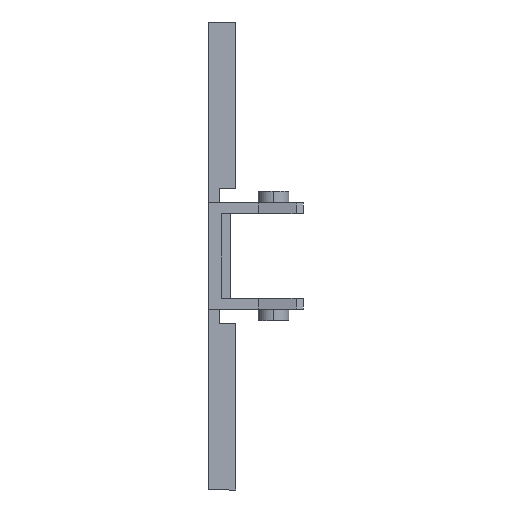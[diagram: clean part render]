
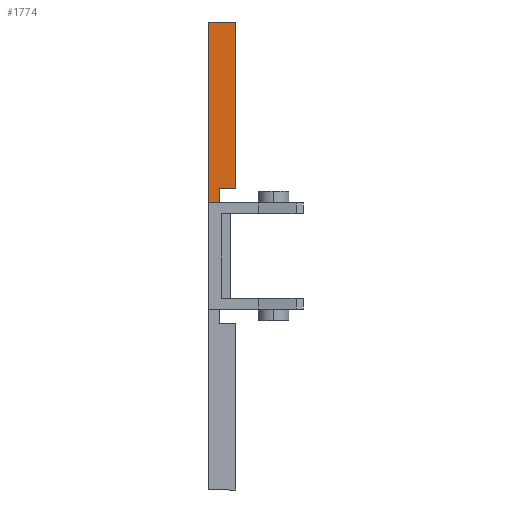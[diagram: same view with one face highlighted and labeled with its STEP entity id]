
A CAD part, front view. The second image highlights one B-rep face of the part: STEP entity #1774.
In plain terms, the highlighted planar face has unit normal (0, -1, 0).
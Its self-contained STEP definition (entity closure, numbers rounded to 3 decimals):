
#1 = DIRECTION ( 'NONE',  ( 0., 0., -1. ) ) ;
#12 = DIRECTION ( 'NONE',  ( -1., 0., 0. ) ) ;
#13 = CARTESIAN_POINT ( 'NONE',  ( 0., -9., 5.9 ) ) ;
#37 = DIRECTION ( 'NONE',  ( -1., 0., 0. ) ) ;
#38 = CARTESIAN_POINT ( 'NONE',  ( 3., -9., 7.5 ) ) ;
#39 = DIRECTION ( 'NONE',  ( 0., 0., 1. ) ) ;
#40 = CARTESIAN_POINT ( 'NONE',  ( 0., -9., 5. ) ) ;
#292 = PLANE ( 'NONE',  #1587 ) ;
#341 = DIRECTION ( 'NONE',  ( 0., 0., 1. ) ) ;
#353 = CARTESIAN_POINT ( 'NONE',  ( 0., -9., 5. ) ) ;
#359 = DIRECTION ( 'NONE',  ( 0., 1., 0. ) ) ;
#468 = VERTEX_POINT ( 'NONE', #564 ) ;
#471 = VERTEX_POINT ( 'NONE', #557 ) ;
#472 = VERTEX_POINT ( 'NONE', #558 ) ;
#502 = CARTESIAN_POINT ( 'NONE',  ( 1.2, -9., 7.5 ) ) ;
#503 = CARTESIAN_POINT ( 'NONE',  ( 0., -9., 5.9 ) ) ;
#505 = CARTESIAN_POINT ( 'NONE',  ( 1.2, -9., 5.9 ) ) ;
#557 = CARTESIAN_POINT ( 'NONE',  ( 3., -9., 7.5 ) ) ;
#558 = CARTESIAN_POINT ( 'NONE',  ( 0., -9., 26. ) ) ;
#564 = CARTESIAN_POINT ( 'NONE',  ( 3., -9., 26. ) ) ;
#717 = VERTEX_POINT ( 'NONE', #505 ) ;
#719 = VERTEX_POINT ( 'NONE', #503 ) ;
#720 = VERTEX_POINT ( 'NONE', #502 ) ;
#805 = DIRECTION ( 'NONE',  ( 0., 0., -1. ) ) ;
#823 = CARTESIAN_POINT ( 'NONE',  ( 1.2, -9., 7.5 ) ) ;
#934 = CARTESIAN_POINT ( 'NONE',  ( 0., -9., 26. ) ) ;
#938 = DIRECTION ( 'NONE',  ( 1., 0., 0. ) ) ;
#1165 = EDGE_CURVE ( 'NONE', #720, #717, #2351, .T. ) ;
#1203 = EDGE_CURVE ( 'NONE', #472, #468, #2271, .T. ) ;
#1294 = EDGE_CURVE ( 'NONE', #468, #471, #2105, .T. ) ;
#1359 = FACE_OUTER_BOUND ( 'NONE', #1983, .T. ) ;
#1474 = VECTOR ( 'NONE', #12, 1000. ) ;
#1475 = LINE ( 'NONE', #13, #1474 ) ;
#1498 = VECTOR ( 'NONE', #37, 1000. ) ;
#1499 = LINE ( 'NONE', #38, #1498 ) ;
#1500 = VECTOR ( 'NONE', #39, 1000. ) ;
#1501 = LINE ( 'NONE', #40, #1500 ) ;
#1514 = CARTESIAN_POINT ( 'NONE',  ( 3., -9., 26. ) ) ;
#1587 = AXIS2_PLACEMENT_3D ( 'NONE', #353, #359, #341 ) ;
#1628 = EDGE_CURVE ( 'NONE', #719, #472, #1501, .T. ) ;
#1631 = EDGE_CURVE ( 'NONE', #471, #720, #1499, .T. ) ;
#1664 = EDGE_CURVE ( 'NONE', #717, #719, #1475, .T. ) ;
#1774 = ADVANCED_FACE ( 'NONE', ( #1359 ), #292, .F. ) ;
#1983 = EDGE_LOOP ( 'NONE', ( #2600, #2601, #2602, #2603, #2604, #2605 ) ) ;
#2104 = VECTOR ( 'NONE', #1, 1000. ) ;
#2105 = LINE ( 'NONE', #1514, #2104 ) ;
#2266 = VECTOR ( 'NONE', #938, 1000. ) ;
#2271 = LINE ( 'NONE', #934, #2266 ) ;
#2342 = VECTOR ( 'NONE', #805, 1000. ) ;
#2351 = LINE ( 'NONE', #823, #2342 ) ;
#2600 = ORIENTED_EDGE ( 'NONE', *, *, #1628, .F. ) ;
#2601 = ORIENTED_EDGE ( 'NONE', *, *, #1664, .F. ) ;
#2602 = ORIENTED_EDGE ( 'NONE', *, *, #1165, .F. ) ;
#2603 = ORIENTED_EDGE ( 'NONE', *, *, #1631, .F. ) ;
#2604 = ORIENTED_EDGE ( 'NONE', *, *, #1294, .F. ) ;
#2605 = ORIENTED_EDGE ( 'NONE', *, *, #1203, .F. ) ;
